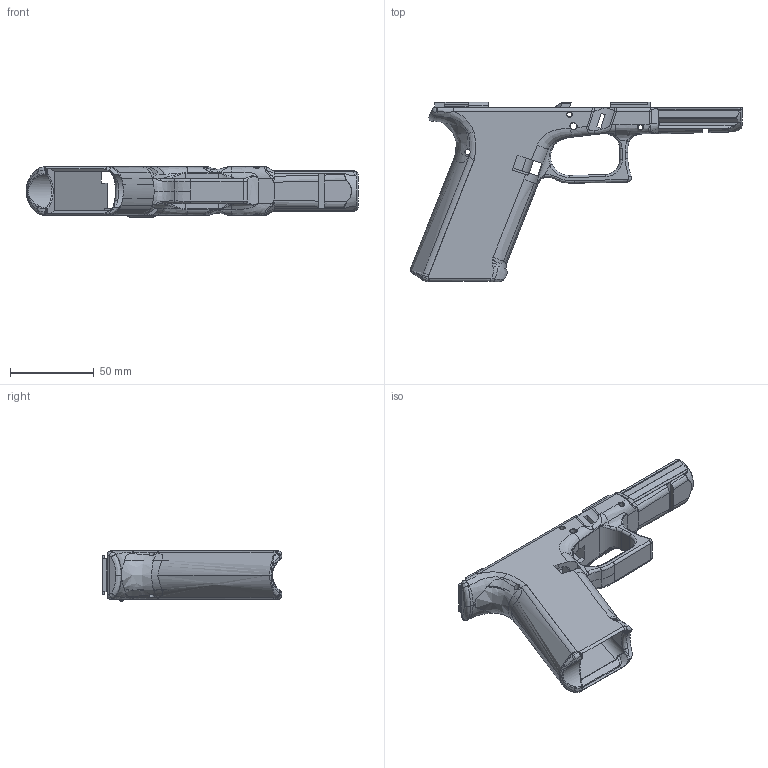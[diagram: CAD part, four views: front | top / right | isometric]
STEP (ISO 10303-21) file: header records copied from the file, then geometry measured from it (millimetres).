
FILE_DESCRIPTION(/* description */ (''),/* implementation_level */ '2;1');
FILE_NAME(/* name */ 'D:\~~GatCad\FMDA DD17.2\STEP\FMDA DD17.2 Assembly.stp',/* time_stamp */ '2021-01-10T11:55:08-06:00',/* author */ ('johne'),/* organization */ (''),/* preprocessor_version */ 'ST-DEVELOPER v18',/* originating_system */ 'Autodesk Inventor 2020',/* authorisation */ '');
FILE_SCHEMA (('AUTOMOTIVE_DESIGN { 1 0 10303 214 3 1 1 }'));
Products named in the file (4): FMDA DD17.2 Assembly; FMDA DD17.2 V1.4 Frame; Revised v2.0 rear rails - uniform profile - 45deg brace (2); FreeMans Glock 19
Assembly tree (3 placements, depth 2):
  FMDA DD17.2 Assembly
    FMDA DD17.2 V1.4 Frame
    Revised v2.0 rear rails - uniform profile - 45deg brace (2)
    FreeMans Glock 19
Bounding box: 197.63 x 106.75 x 29.84 mm (x, y, z)
Volume: 90975 mm3; surface area: 52464.7 mm2
Topology: 3 solids, 5 shells, 731 faces, 2045 edges, 1292 vertices
Faces by surface type: bspline 295, plane 228, cylinder 159, torus 21, sphere 16, cone 12
Full cylindrical faces by diameter (mm): 2 x1, 3 x5, 3.2 x4, 4 x2
Entity records: 53905 total; most frequent: CARTESIAN_POINT 36791, ORIENTED_EDGE 4066, DIRECTION 2898, EDGE_CURVE 2033, VERTEX_POINT 1293, AXIS2_PLACEMENT_3D 1039, LINE 820, VECTOR 820
